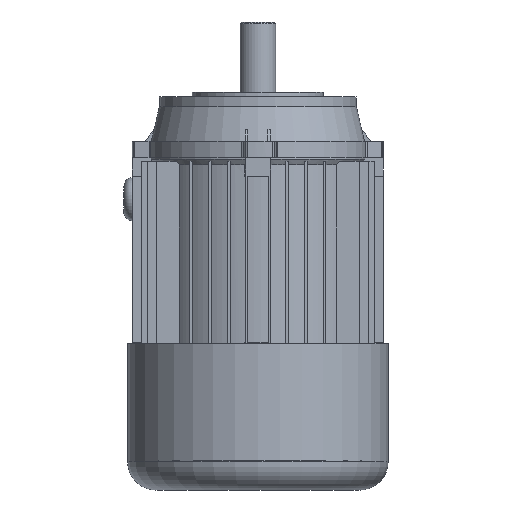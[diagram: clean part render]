
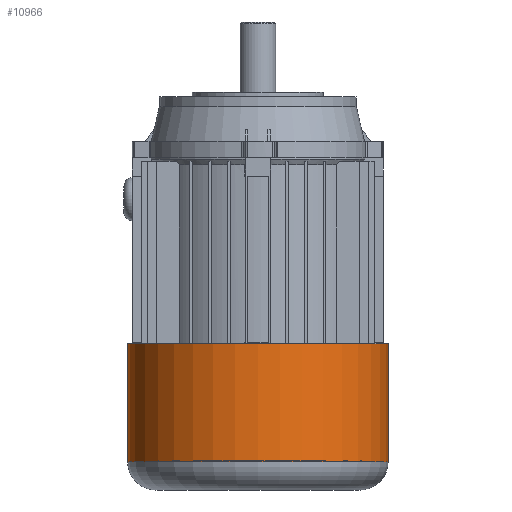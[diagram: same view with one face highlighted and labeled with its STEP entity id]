
A CAD part, front view. The second image highlights one B-rep face of the part: STEP entity #10966.
In plain terms, the highlighted cylindrical face has radius 69.5 mm (diameter 139 mm), a full revolution.
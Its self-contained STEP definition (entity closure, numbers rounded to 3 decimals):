
#2210=FACE_BOUND('',#3746,.T.);
#2382=CYLINDRICAL_SURFACE('',#12060,69.5);
#3016=FACE_OUTER_BOUND('',#3745,.T.);
#3745=EDGE_LOOP('',(#9921));
#3746=EDGE_LOOP('',(#9922));
#4213=CIRCLE('',#12058,69.5);
#4214=CIRCLE('',#12061,69.5);
#5261=VERTEX_POINT('',#18868);
#5262=VERTEX_POINT('',#18872);
#6816=EDGE_CURVE('',#5261,#5261,#4213,.T.);
#6817=EDGE_CURVE('',#5262,#5262,#4214,.T.);
#9921=ORIENTED_EDGE('',*,*,#6817,.F.);
#9922=ORIENTED_EDGE('',*,*,#6816,.F.);
#10966=ADVANCED_FACE('',(#3016,#2210),#2382,.T.);
#12058=AXIS2_PLACEMENT_3D('',#18869,#15181,#15182);
#12060=AXIS2_PLACEMENT_3D('',#18871,#15185,#15186);
#12061=AXIS2_PLACEMENT_3D('',#18873,#15187,#15188);
#15181=DIRECTION('center_axis',(0.,0.,-1.));
#15182=DIRECTION('ref_axis',(0.,-1.,0.));
#15185=DIRECTION('center_axis',(0.,0.,1.));
#15186=DIRECTION('ref_axis',(0.,1.,0.));
#15187=DIRECTION('center_axis',(0.,0.,1.));
#15188=DIRECTION('ref_axis',(-1.,0.,0.));
#18868=CARTESIAN_POINT('',(0.,69.5,-108.2));
#18869=CARTESIAN_POINT('Origin',(0.,0.,-108.2));
#18871=CARTESIAN_POINT('Origin',(0.,0.,-84.2));
#18872=CARTESIAN_POINT('',(0.,69.5,-45.2));
#18873=CARTESIAN_POINT('Origin',(0.,0.,-45.2));
